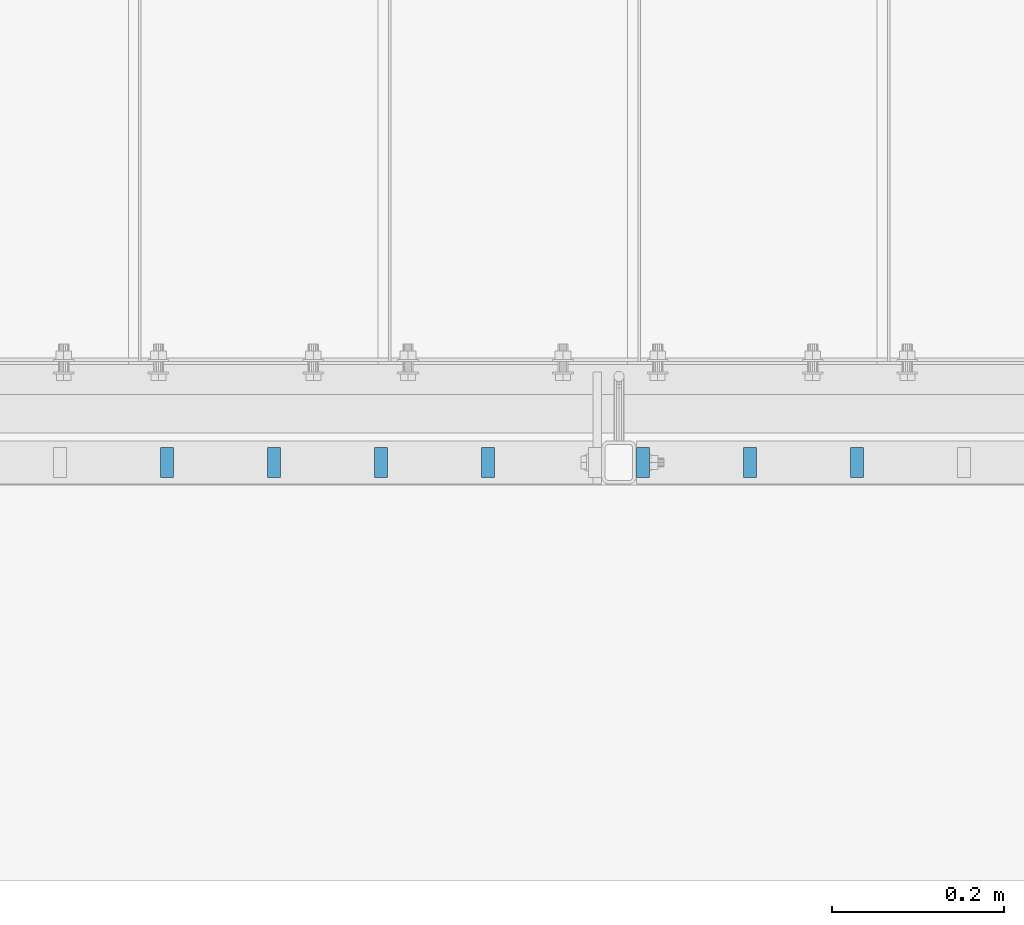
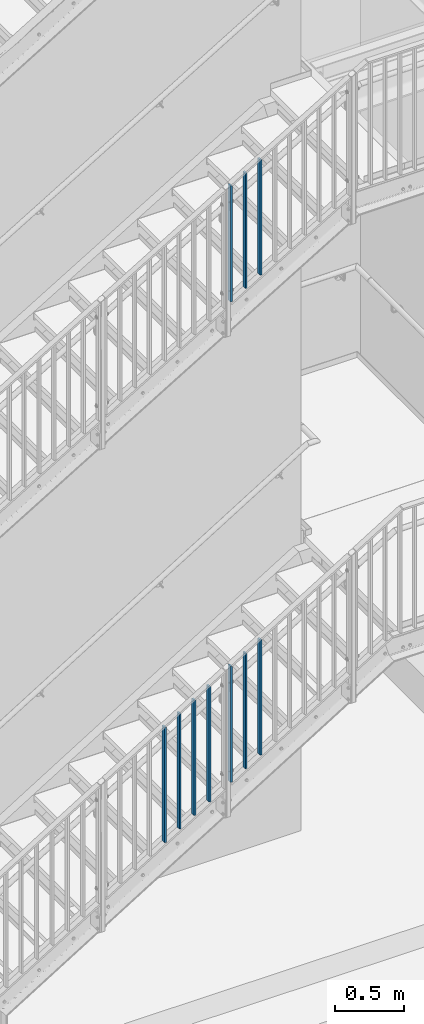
# One storey, part 14 of 410: 10 columns, 4 openings.
"""IFC2X3 building model written with IfcOpenShell, lengths in millimetres."""

from ifc_helpers import new_model, entity, si_unit, converted_unit, frame, frame_2d, origin, origin_with_axes, origin_2d, place, context, project, spatial, rectangle, circle, extrude, material, element, save


model = new_model("IFC2X3")

# Units and contexts
model_context = context("Model", 3, precision=1e-09, world=origin_with_axes())
ifc_project = project(units=[si_unit("LENGTHUNIT", "METRE", prefix="MILLI"), si_unit("AREAUNIT", "SQUARE_METRE"), si_unit("VOLUMEUNIT", "CUBIC_METRE"), converted_unit("PLANEANGLEUNIT", "DEGREE", entity("IfcPlaneAngleMeasure", 0.01745329), si_unit("PLANEANGLEUNIT", "RADIAN"), dimensions=[0, 0, 0, 0, 0, 0, 0])], contexts=[model_context])

# Site, building, storey
site_placement = place(None, origin_with_axes())
site = spatial("IfcSite", under=ifc_project, at=site_placement, Name="mKR Teilneubau & Sanierung BA1 - Ostfildern", CompositionType="ELEMENT")
building_placement = place(site_placement, origin_with_axes())
building = spatial("IfcBuilding", under=site, at=building_placement, Name="Struktur 1", CompositionType="ELEMENT")
storey_placement = place(building_placement, origin_with_axes())
storey = spatial("IfcBuildingStorey", under=building, at=storey_placement, Name="Default Storey", CompositionType="ELEMENT", Elevation=0.0)

# Columns
ifc_material = material(Name="S235JR")
for number, where, z_axis, x_axis in (
    (1, (-209.998531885, 15405.999999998, -3311.964493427), (0.0, 0.0, -1.0), (1.0, 0.0, 0.0)),
    (2, (-85.748531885, 15405.999999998, -3235.357941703), (0.0, 0.0, -1.0), (1.0, 0.0, 0.0)),
    (3, (38.501468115, 15405.999999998, -3158.751389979), (0.0, 0.0, -1.0), (1.0, 0.0, 0.0)),
    (4, (162.751468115, 15405.999999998, -3082.144838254), (0.0, 0.0, -1.0), (1.0, 0.0, 0.0)),
):
    element("IfcColumn", number, at=place(None, frame(where, z_axis=z_axis, x_axis=x_axis)), inside=storey, material=ifc_material, Name="-", ObjectType="-", context=model_context, shape_type="SweptSolid", body=[
        extrude(rectangle(XDim=15.0, YDim=35.0, at=origin_2d()), origin(), (0.0, 0.0, -1.0), 1020.264209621),
    ])

# Column, openings
column_1_placement = place(None, frame((343.001468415, 15405.999999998, -1945.893520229), z_axis=(0.0, 0.0, 1.0), x_axis=(-1.0, 0.0, 0.0)))
column_1 = element("IfcColumn", 5, at=column_1_placement, inside=storey, material=ifc_material, Name="-", ObjectType="-", context=model_context, shape_type="SweptSolid", body=[
    extrude(rectangle(XDim=15.0, YDim=35.0, at=origin_2d()), origin(), (0.0, 0.0, -1.0), 1025.117869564),
])
opening_1_placement = place(column_1_placement, frame((-8.0, -6.001, -938.415191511), z_axis=(-1.0, 0.0, 0.0), x_axis=(0.0, -1.0, 0.0)))
element("IfcOpeningElement", 6, at=opening_1_placement, cuts=column_1, ObjectType="Opening", context=model_context, shape_type="SweptSolid", body=[
    extrude(circle(Radius=6.001, at=frame_2d((-6.001, 0.0), x_axis=(1.0, 0.0))), origin(), (0.0, 0.0, -1.0), 16.0),
])
opening_2_placement = place(column_1_placement, frame((-8.0, -6.001, -153.415191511), z_axis=(-1.0, 0.0, 0.0), x_axis=(0.0, -1.0, 0.0)))
element("IfcOpeningElement", 7, at=opening_2_placement, cuts=column_1, ObjectType="Opening", context=model_context, shape_type="SweptSolid", body=[
    extrude(circle(Radius=6.001, at=frame_2d((-6.001, 0.0), x_axis=(1.0, 0.0))), origin(), (0.0, 0.0, -1.0), 16.0),
])

# Columns
for number, where, z_axis, x_axis in (
    (8, (467.251468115, 15405.999999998, -2894.404838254), (0.0, 0.0, -1.0), (1.0, 0.0, 0.0)),
    (9, (591.501468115, 15405.999999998, -2817.79828653), (0.0, 0.0, -1.0), (1.0, 0.0, 0.0)),
):
    element("IfcColumn", number, at=place(None, frame(where, z_axis=z_axis, x_axis=x_axis)), inside=storey, material=ifc_material, Name="-", ObjectType="-", context=model_context, shape_type="SweptSolid", body=[
        extrude(rectangle(XDim=15.0, YDim=35.0, at=origin_2d()), origin(), (0.0, 0.0, -1.0), 1020.264209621),
    ])

# Column, openings
column_2_placement = place(None, frame((343.001468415, 15405.999999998, 1285.156165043), z_axis=(0.0, 0.0, -1.0), x_axis=(1.0, 0.0, 0.0)))
column_2 = element("IfcColumn", 10, at=column_2_placement, inside=storey, material=ifc_material, Name="-", ObjectType="-", context=model_context, shape_type="SweptSolid", body=[
    extrude(rectangle(XDim=15.0, YDim=35.0, at=origin_2d()), origin(), (0.0, 0.0, -1.0), 1025.668776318),
])
opening_3_placement = place(column_2_placement, frame((8.0, -6.001, -87.401674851), z_axis=(1.0, 0.0, 0.0), x_axis=(0.0, 1.0, 0.0)))
element("IfcOpeningElement", 11, at=opening_3_placement, cuts=column_2, ObjectType="Opening", context=model_context, shape_type="SweptSolid", body=[
    extrude(circle(Radius=6.001, at=frame_2d((6.001, 0.0), x_axis=(1.0, 0.0))), origin(), (0.0, 0.0, -1.0), 16.0),
])
opening_4_placement = place(column_2_placement, frame((8.0, -6.001, -872.401674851), z_axis=(1.0, 0.0, 0.0), x_axis=(0.0, 1.0, 0.0)))
element("IfcOpeningElement", 12, at=opening_4_placement, cuts=column_2, ObjectType="Opening", context=model_context, shape_type="SweptSolid", body=[
    extrude(circle(Radius=6.001, at=frame_2d((6.001, 0.0), x_axis=(1.0, 0.0))), origin(), (0.0, 0.0, -1.0), 16.0),
])

# Columns
for number, where, z_axis, x_axis in (
    (13, (467.25146833, 15405.999999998, 2380.711238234), (0.0, 0.0, 1.0), (-1.0, 0.0, 0.0)),
    (14, (591.50146833, 15405.999999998, 2455.223981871), (0.0, 0.0, 1.0), (-1.0, 0.0, 0.0)),
):
    element("IfcColumn", number, at=place(None, frame(where, z_axis=z_axis, x_axis=x_axis)), inside=storey, material=ifc_material, Name="-", ObjectType="-", context=model_context, shape_type="SweptSolid", body=[
        extrude(rectangle(XDim=15.0, YDim=35.0, at=origin_2d()), origin(), (0.0, 0.0, -1.0), 1021.042329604),
    ])

save(model, "model.ifc")
